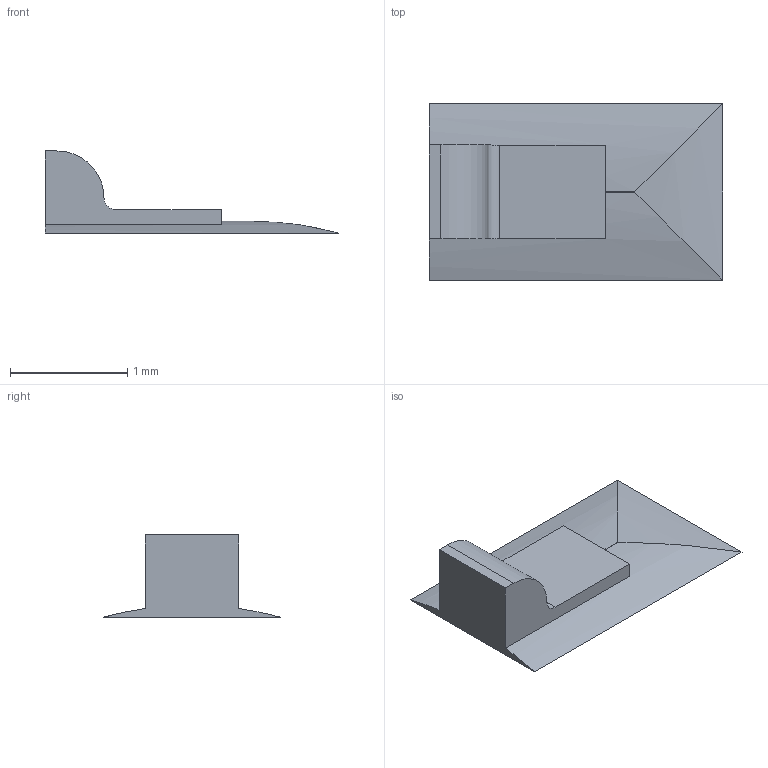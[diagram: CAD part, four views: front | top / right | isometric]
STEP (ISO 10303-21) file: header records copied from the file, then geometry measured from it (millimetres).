
FILE_DESCRIPTION(/* description */ ('STEP AP242 Edition 2','CAx-IF Rec.Pracs.---Representation and Presentation of Product Manufacturing Information (PMI)---4.0---2014-10-13','CAx-IF Rec.Pracs.---3D Tessellated Geometry---0.4---2014-09-14','2;1','CAx-IF Rec.Pracs.---User Defined Attributes---1.5---2016-08-15'),/* implementation_level */ '2;1');
FILE_NAME(/* name */ 'Drone Layout - Surface 258',/* time_stamp */ '2026-10-04T22:22:54Z',/* author */ (''),/* organization */ (''),/* preprocessor_version */ 'ST-DEVELOPER v20',/* originating_system */ 'ONSHAPE BY PTC INC, 1.221',/* authorisation */ ' ');
FILE_SCHEMA (('AP242_MANAGED_MODEL_BASED_3D_ENGINEERING_MIM_LF { 1 0 10303 442 3 1 4 }'));
Length unit declared in the file: metre
Products named in the file (1): vreg:1__pins (1)
Bounding box: 2.5 x 1.5 x 0.7 mm (x, y, z)
Volume: 0.5 mm3; surface area: 9.3 mm2
Topology: 1 solids, 1 shells, 13 faces, 33 edges, 22 vertices
Faces by surface type: plane 8, cylinder 5
Entity records: 410 total; most frequent: CARTESIAN_POINT 75, DIRECTION 67, ORIENTED_EDGE 66, EDGE_CURVE 33, LINE 23, VECTOR 23, VERTEX_POINT 22, AXIS2_PLACEMENT_3D 22
